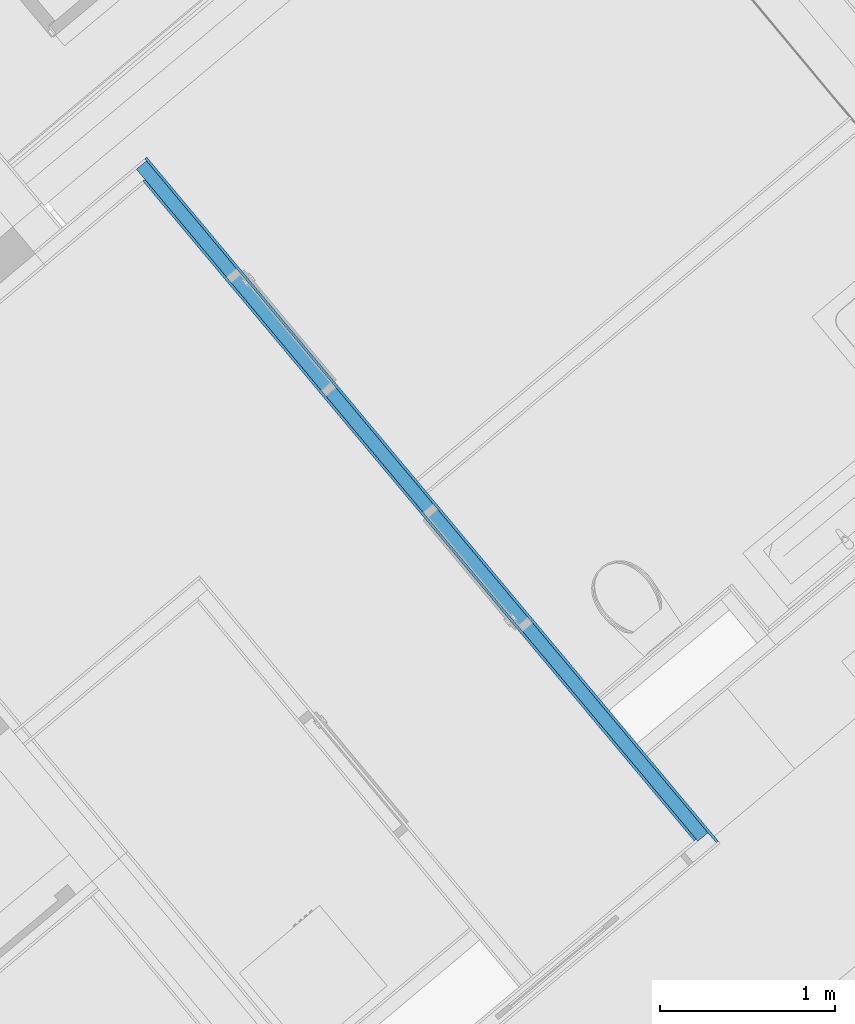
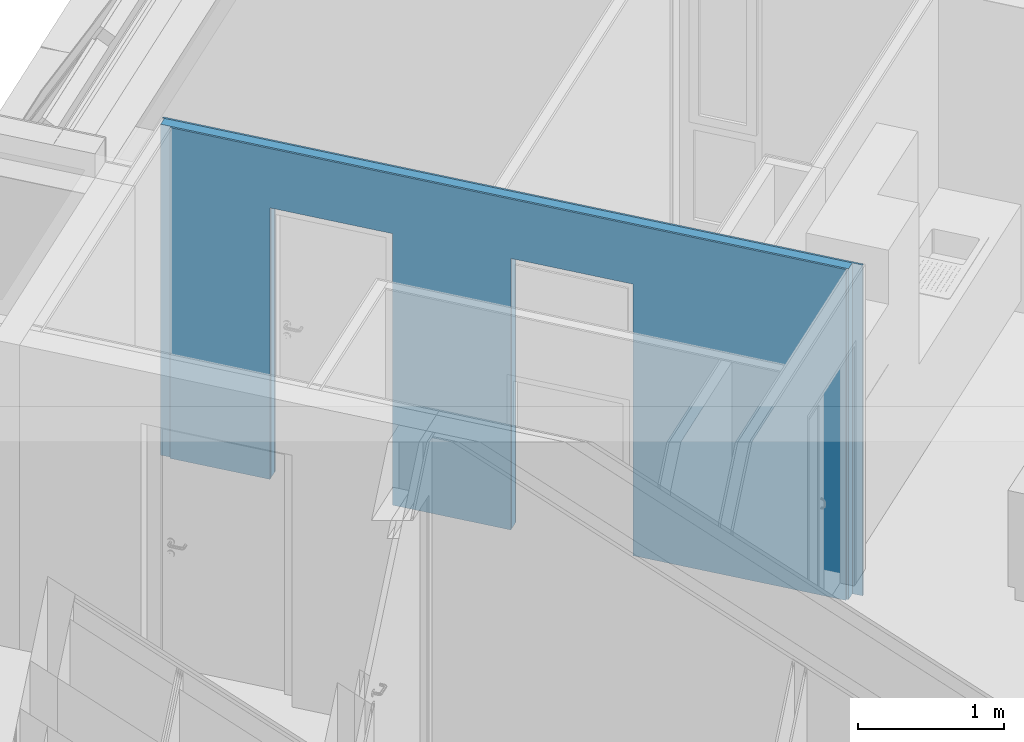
# One storey, part 12 of 58: 3 building element parts, 2 openings, 1 element without a shape of its own.
"""IFC4 building model written with IfcOpenShell, lengths in metres."""

from ifc_helpers import new_model, entity, si_unit, converted_unit, derived_unit, direction, frame, origin_with_axes, place, context, subcontext, project, spatial, polygons, material, type_object, element, aggregate, save


model = new_model("IFC4")

# Units and contexts
model_context = context("Model", 3, precision=1e-05, world=origin_with_axes(), true_north=direction((0.0, 1.0)))
body_context = subcontext(model_context, "Body", "Model", "MODEL_VIEW")
ifc_project = project(units=[si_unit("LENGTHUNIT", "METRE"), si_unit("AREAUNIT", "SQUARE_METRE"), si_unit("VOLUMEUNIT", "CUBIC_METRE"), converted_unit("PLANEANGLEUNIT", "DEGREE", entity("IfcPlaneAngleMeasure", 0.0174532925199), si_unit("PLANEANGLEUNIT", "RADIAN"), dimensions=[0, 0, 0, 0, 0, 0, 0]), converted_unit("TIMEUNIT", "Year", entity("IfcTimeMeasure", 31556926.0), si_unit("TIMEUNIT", "SECOND"), dimensions=[0, 0, 1, 0, 0, 0, 0]), si_unit("MASSUNIT", "GRAM", prefix="KILO"), si_unit("THERMODYNAMICTEMPERATUREUNIT", "DEGREE_CELSIUS"), si_unit("LUMINOUSINTENSITYUNIT", "LUMEN"), si_unit("ENERGYUNIT", "JOULE", prefix="MEGA"), derived_unit("THERMALCONDUCTANCEUNIT", [(si_unit("POWERUNIT", "WATT"), 1), (si_unit("LENGTHUNIT", "METRE"), -1), (si_unit("THERMODYNAMICTEMPERATUREUNIT", "KELVIN"), -1)]), derived_unit("SPECIFICHEATCAPACITYUNIT", [(si_unit("ENERGYUNIT", "JOULE"), 1), (si_unit("MASSUNIT", "GRAM", prefix="KILO"), -1), (si_unit("THERMODYNAMICTEMPERATUREUNIT", "KELVIN"), -1)]), derived_unit("MASSDENSITYUNIT", [(si_unit("MASSUNIT", "GRAM", prefix="KILO"), 1), (si_unit("VOLUMEUNIT", "CUBIC_METRE"), -1)])], contexts=[model_context])

# Site, building, storey
site_placement = place(None, frame((-0.00153261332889, -0.00661245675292, 0.0), z_axis=(0.0, 0.0, 1.0), x_axis=(1.0, 0.0, 0.0)))
site = spatial("IfcSite", under=ifc_project, at=site_placement, Name="Site", CompositionType="ELEMENT")
building_placement = place(site_placement, origin_with_axes())
building = spatial("IfcBuilding", under=site, at=building_placement, Name="Building", CompositionType="ELEMENT")
storey_placement = place(building_placement, frame((0.0, 0.0, 5.7), z_axis=(0.0, 0.0, 1.0), x_axis=(1.0, 0.0, 0.0)))
storey = spatial("IfcBuildingStorey", under=building, at=storey_placement, Name="DG1", CompositionType="ELEMENT", Elevation=5.7)

# Wall, openings, building element parts
wall_type = type_object("IfcWallType", Name="IW LB 01 Leichtbautrennwand einfach 10,5 cm 105", PredefinedType="NOTDEFINED")
wall_placement = place(storey_placement, frame((6.82661068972, 22.4478297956, 0.0), z_axis=(0.0, 0.0, 1.0), x_axis=(-0.641209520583, 0.767365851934, 0.0)))
wall = element("IfcWall", 1, at=wall_placement, inside=storey, type_object=wall_type, Name="Wand-012", PredefinedType="NOTDEFINED")
opening_1_placement = place(wall_placement, frame((2.09706783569, 0.0, 0.22), z_axis=(0.0, 0.0, 1.0), x_axis=(1.0, 0.0, 0.0)))
element("IfcOpeningElement", 2, at=opening_1_placement, cuts=wall, Name="Tür-014", context=body_context, identifier="Reference", shape_type="Tessellation", body=[
    polygons([(-0.445, -2.51639218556, 2.045), (-0.445, -2.51639218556, -0.22), (0.445, -2.51639218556, -0.22), (0.445, -2.51639218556, 2.045), (-0.445, 2.62139218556, 2.045), (-0.445, 2.62139218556, -0.22), (0.445, 2.62139218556, -0.22), (0.445, 2.62139218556, 2.045)], [[[1, 2, 3, 4]], [[5, 6, 2, 1]], [[6, 7, 3, 2]], [[7, 8, 4, 3]], [[8, 5, 1, 4]], [[7, 6, 5, 8]]], closed=True),
])
opening_2_placement = place(wall_placement, frame((3.85013716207, 0.0, 0.22), z_axis=(0.0, 0.0, 1.0), x_axis=(1.0, 0.0, 0.0)))
element("IfcOpeningElement", 3, at=opening_2_placement, cuts=wall, Name="Tür-016", context=body_context, identifier="Reference", shape_type="Tessellation", body=[
    polygons([(0.445, 2.62139218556, 2.045), (0.445, 2.62139218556, -0.22), (-0.445, 2.62139218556, -0.22), (-0.445, 2.62139218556, 2.045), (0.445, -2.51639218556, 2.045), (0.445, -2.51639218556, -0.22), (-0.445, -2.51639218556, -0.22), (-0.445, -2.51639218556, 2.045)], [[[1, 2, 3, 4]], [[5, 6, 2, 1]], [[6, 7, 3, 2]], [[7, 8, 4, 3]], [[8, 5, 1, 4]], [[7, 6, 5, 8]]], closed=True),
])
ifc_material_1 = material(Name="Gipskarton")
building_element_part_1_placement = place(wall_placement, origin_with_axes())
building_element_part_1 = element("IfcBuildingElementPart", 4, at=building_element_part_1_placement, material=ifc_material_1, Name="Gipskarton", PredefinedType="NOTDEFINED", context=body_context, shape_type="Tessellation", body=[
    polygons([(4.29513716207, 0.09, 2.265), (4.29513716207, 0.09, 0.22), (4.29513712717, 0.09, 0.0), (5.02214477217, 0.09, 0.0), (5.02214477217, 0.09, 2.76), (0.105056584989, 0.09, 2.76), (0.105056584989, 0.09, 0.0), (1.6520678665, 0.09, 0.0), (1.65206783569, 0.09, 0.22), (1.65206783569, 0.09, 2.265), (2.54206783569, 0.09, 2.265), (2.54206783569, 0.09, 0.22), (2.54206783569, 0.09, 0.0), (3.40513716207, 0.09, 0.0), (3.40513716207, 0.09, 0.22), (3.40513716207, 0.09, 2.265), (4.29513716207, 0.105, 2.265), (4.29513716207, 0.105, 0.22), (4.29513712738, 0.105, 0.0), (5.02214451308, 0.105, 0.0), (5.02214451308, 0.105, 2.76), (0.105066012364, 0.105, 2.76), (0.105066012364, 0.105, 0.0), (1.65206786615, 0.105, 0.0), (1.65206783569, 0.105, 0.22), (1.65206783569, 0.105, 2.265), (2.54206783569, 0.105, 2.265), (2.54206783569, 0.105, 0.22), (2.54206783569, 0.105, 0.0), (3.40513716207, 0.105, 0.0), (3.40513716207, 0.105, 0.22), (3.40513716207, 0.105, 2.265)], [[[1, 2, 3, 4, 5, 6, 7, 8, 9, 10, 11, 12, 13, 14, 15, 16]], [[2, 1, 17, 18]], [[2, 18, 19, 3]], [[20, 4, 3, 19]], [[21, 5, 4, 20]], [[22, 6, 5, 21]], [[7, 6, 22, 23]], [[7, 23, 24, 8]], [[9, 8, 24, 25]], [[9, 25, 26, 10]], [[10, 26, 27, 11]], [[11, 27, 28, 12]], [[28, 29, 13, 12]], [[13, 29, 30, 14]], [[31, 15, 14, 30]], [[16, 15, 31, 32]], [[1, 16, 32, 17]], [[32, 31, 30, 29, 28, 27, 26, 25, 24, 23, 22, 21, 20, 19, 18, 17]]], closed=True),
])
ifc_material_2 = material(Name="Mineralwolle weich")
building_element_part_2_placement = place(wall_placement, origin_with_axes())
building_element_part_2 = element("IfcBuildingElementPart", 5, at=building_element_part_2_placement, material=ifc_material_2, Name="Mineralwolle weich", PredefinedType="NOTDEFINED", context=body_context, shape_type="Tessellation", body=[
    polygons([(4.29513716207, 0.015, 2.265), (4.29513716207, 0.015, 0.22), (4.29513712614, 0.015, 0.0), (5.09714606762, 0.015, 0.0), (5.09714606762, 0.015, 2.76), (0.0900094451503, 0.015, 2.76), (0.0900094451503, 0.015, 0.0), (1.65206786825, 0.015, 0.0), (1.65206783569, 0.015, 0.22), (1.65206783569, 0.015, 2.265), (2.54206783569, 0.015, 2.265), (2.54206783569, 0.015, 0.22), (2.54206783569, 0.015, 0.0), (3.40513716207, 0.015, 0.0), (3.40513716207, 0.015, 0.22), (3.40513716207, 0.015, 2.265), (4.29513716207, 0.09, 2.265), (4.29513716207, 0.09, 0.22), (4.29513712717, 0.09, 0.0), (5.09714477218, 0.09, 0.0), (5.09714477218, 0.09, 2.76), (0.0900565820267, 0.09, 2.76), (0.0900565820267, 0.09, 0.0), (1.6520678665, 0.09, 0.0), (1.65206783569, 0.09, 0.22), (1.65206783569, 0.09, 2.265), (2.54206783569, 0.09, 2.265), (2.54206783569, 0.09, 0.22), (2.54206783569, 0.09, 0.0), (3.40513716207, 0.09, 0.0), (3.40513716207, 0.09, 0.22), (3.40513716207, 0.09, 2.265)], [[[1, 2, 3, 4, 5, 6, 7, 8, 9, 10, 11, 12, 13, 14, 15, 16]], [[2, 1, 17, 18]], [[2, 18, 19, 3]], [[20, 4, 3, 19]], [[21, 5, 4, 20]], [[22, 6, 5, 21]], [[7, 6, 22, 23]], [[7, 23, 24, 8]], [[9, 8, 24, 25]], [[9, 25, 26, 10]], [[10, 26, 27, 11]], [[11, 27, 28, 12]], [[28, 29, 13, 12]], [[13, 29, 30, 14]], [[31, 15, 14, 30]], [[16, 15, 31, 32]], [[1, 16, 32, 17]], [[32, 31, 30, 29, 28, 27, 26, 25, 24, 23, 22, 21, 20, 19, 18, 17]]], closed=True),
])
building_element_part_3_placement = place(wall_placement, origin_with_axes())
building_element_part_3 = element("IfcBuildingElementPart", 6, at=building_element_part_3_placement, material=ifc_material_1, Name="Gipskarton", PredefinedType="NOTDEFINED", context=body_context, shape_type="Tessellation", body=[
    polygons([(4.29513716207, 1.80857995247e-10, 2.265), (4.29513716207, -6.83304079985e-09, 0.22), (4.29513712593, -6.83304079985e-09, 0.0), (5.11214632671, 0.0, 0.0), (5.11214632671, 0.0, 2.76), (0.0150000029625, 0.0, 2.76), (0.0150000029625, 0.0, 0.0), (1.6520678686, 6.71234090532e-09, 0.0), (1.65206783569, 6.71234090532e-09, 0.22), (1.65206783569, 1.80857995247e-10, 2.265), (2.54206783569, 1.80857995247e-10, 2.265), (2.54206783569, -3.01550784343e-10, 0.22), (2.54206783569, -3.01550784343e-10, 0.0), (3.40513716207, 1.80857995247e-10, 0.0), (3.40513716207, 1.80857995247e-10, 0.22), (3.40513716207, 1.80857995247e-10, 2.265), (4.29513716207, 0.015, 2.265), (4.29513716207, 0.015, 0.22), (4.29513712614, 0.015, 0.0), (5.11214606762, 0.015, 0.0), (5.11214606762, 0.015, 2.76), (0.0150094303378, 0.015, 2.76), (0.0150094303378, 0.015, 0.0), (1.65206786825, 0.015, 0.0), (1.65206783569, 0.015, 0.22), (1.65206783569, 0.015, 2.265), (2.54206783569, 0.015, 2.265), (2.54206783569, 0.015, 0.22), (2.54206783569, 0.015, 0.0), (3.40513716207, 0.015, 0.0), (3.40513716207, 0.015, 0.22), (3.40513716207, 0.015, 2.265)], [[[1, 2, 3, 4, 5, 6, 7, 8, 9, 10, 11, 12, 13, 14, 15, 16]], [[2, 1, 17, 18]], [[2, 18, 19, 3]], [[20, 4, 3, 19]], [[21, 5, 4, 20]], [[22, 6, 5, 21]], [[7, 6, 22, 23]], [[7, 23, 24, 8]], [[9, 8, 24, 25]], [[9, 25, 26, 10]], [[10, 26, 27, 11]], [[11, 27, 28, 12]], [[28, 29, 13, 12]], [[13, 29, 30, 14]], [[31, 15, 14, 30]], [[16, 15, 31, 32]], [[1, 16, 32, 17]], [[32, 31, 30, 29, 28, 27, 26, 25, 24, 23, 22, 21, 20, 19, 18, 17]]], closed=True),
])
aggregate(wall, [building_element_part_1, building_element_part_2, building_element_part_3])

save(model, "model.ifc")
